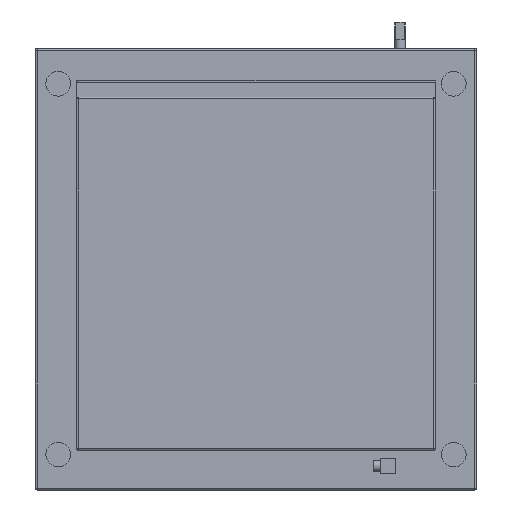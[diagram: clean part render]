
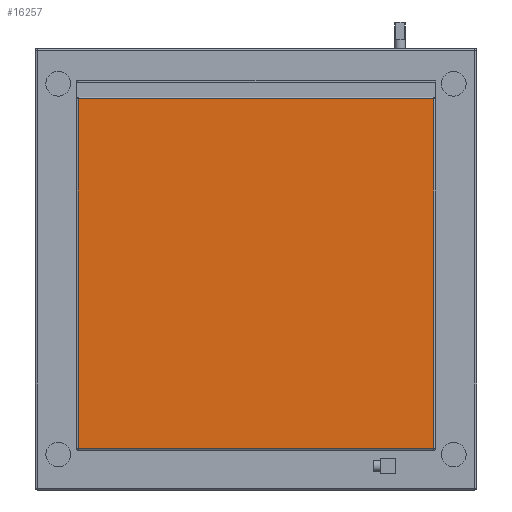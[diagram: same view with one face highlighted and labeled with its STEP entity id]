
A CAD part, front view. The second image highlights one B-rep face of the part: STEP entity #16257.
In plain terms, the highlighted planar face has unit normal (0, -1, 0).
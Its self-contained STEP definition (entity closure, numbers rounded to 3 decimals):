
#911=PLANE('',#17420);
#1446=FACE_OUTER_BOUND('',#2351,.T.);
#2351=EDGE_LOOP('',(#11213,#11214,#11215,#11216));
#3310=LINE('',#22719,#4923);
#3312=LINE('',#22739,#4925);
#3314=LINE('',#22742,#4927);
#3321=LINE('',#22755,#4934);
#4923=VECTOR('',#18668,10.);
#4925=VECTOR('',#18692,10.);
#4927=VECTOR('',#18696,10.);
#4934=VECTOR('',#18711,10.);
#6986=VERTEX_POINT('',#22709);
#6987=VERTEX_POINT('',#22713);
#6990=VERTEX_POINT('',#22725);
#6995=VERTEX_POINT('',#22735);
#8652=EDGE_CURVE('',#6987,#6986,#3310,.T.);
#8661=EDGE_CURVE('',#6990,#6995,#3312,.T.);
#8663=EDGE_CURVE('',#6995,#6987,#3314,.T.);
#8671=EDGE_CURVE('',#6986,#6990,#3321,.T.);
#11213=ORIENTED_EDGE('',*,*,#8661,.F.);
#11214=ORIENTED_EDGE('',*,*,#8671,.F.);
#11215=ORIENTED_EDGE('',*,*,#8652,.F.);
#11216=ORIENTED_EDGE('',*,*,#8663,.F.);
#16257=ADVANCED_FACE('',(#1446),#911,.T.);
#17420=AXIS2_PLACEMENT_3D('',#22764,#18720,#18721);
#18668=DIRECTION('',(0.,0.,-1.));
#18692=DIRECTION('',(0.,0.,1.));
#18696=DIRECTION('',(1.,0.,0.));
#18711=DIRECTION('',(-1.,0.,0.));
#18720=DIRECTION('center_axis',(0.,-1.,0.));
#18721=DIRECTION('ref_axis',(1.,0.,0.));
#22709=CARTESIAN_POINT('',(201.5,-27.,-203.));
#22713=CARTESIAN_POINT('',(201.5,-27.,193.));
#22719=CARTESIAN_POINT('',(201.5,-27.,0.));
#22725=CARTESIAN_POINT('',(-201.5,-27.,-203.));
#22735=CARTESIAN_POINT('',(-201.5,-27.,193.));
#22739=CARTESIAN_POINT('',(-201.5,-27.,0.));
#22742=CARTESIAN_POINT('',(-101.75,-27.,193.));
#22755=CARTESIAN_POINT('',(-101.75,-27.,-203.));
#22764=CARTESIAN_POINT('Origin',(-203.5,-27.,0.));
